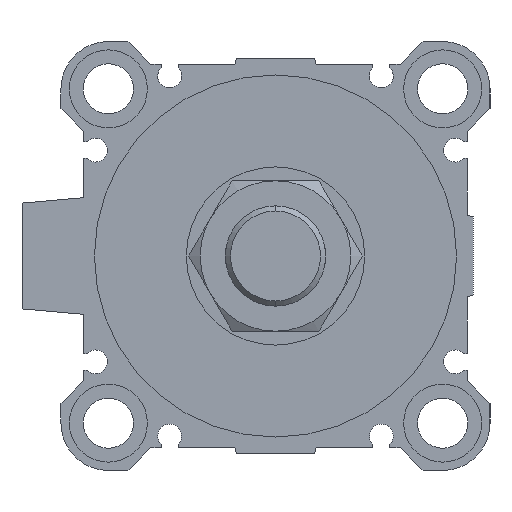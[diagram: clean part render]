
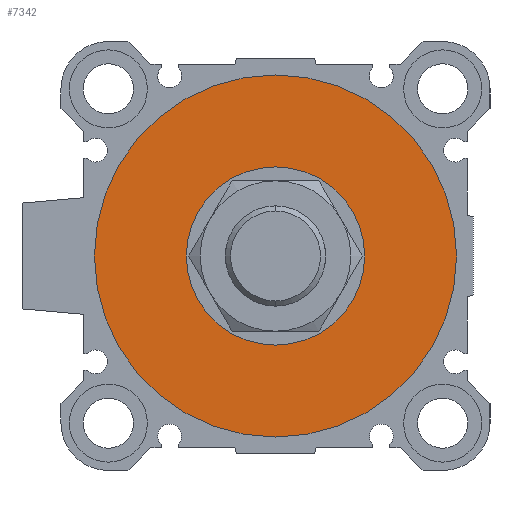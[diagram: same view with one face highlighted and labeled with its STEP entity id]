
A CAD part, left-side view. The second image highlights one B-rep face of the part: STEP entity #7342.
In plain terms, the highlighted planar face has unit normal (-1, 0, 0).
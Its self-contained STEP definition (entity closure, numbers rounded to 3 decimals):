
#43 = CARTESIAN_POINT ( 'NONE',  ( 4., 0., 32.5 ) ) ;
#703 = DIRECTION ( 'NONE',  ( 1., 0., 0. ) ) ;
#935 = EDGE_LOOP ( 'NONE', ( #3161, #3011 ) ) ;
#1296 = CARTESIAN_POINT ( 'NONE',  ( 4., 0., 0. ) ) ;
#1372 = EDGE_CURVE ( 'NONE', #1954, #5071, #6882, .T. ) ;
#1416 = DIRECTION ( 'NONE',  ( 1., 0., 0. ) ) ;
#1437 = DIRECTION ( 'NONE',  ( 1., 0., 0. ) ) ;
#1565 = CARTESIAN_POINT ( 'NONE',  ( 4., 0., 16. ) ) ;
#1954 = VERTEX_POINT ( 'NONE', #5795 ) ;
#1956 = EDGE_LOOP ( 'NONE', ( #3260, #4073 ) ) ;
#2089 = DIRECTION ( 'NONE',  ( 1., 0., 0. ) ) ;
#2161 = EDGE_CURVE ( 'NONE', #6889, #4918, #7389, .T. ) ;
#2221 = CIRCLE ( 'NONE', #3462, 16. ) ;
#2366 = AXIS2_PLACEMENT_3D ( 'NONE', #5132, #5165, #3441 ) ;
#2644 = DIRECTION ( 'NONE',  ( 0., 1., 0. ) ) ;
#2993 = EDGE_CURVE ( 'NONE', #4918, #6889, #4315, .T. ) ;
#3011 = ORIENTED_EDGE ( 'NONE', *, *, #2993, .F. ) ;
#3016 = AXIS2_PLACEMENT_3D ( 'NONE', #4833, #1416, #2644 ) ;
#3035 = DIRECTION ( 'NONE',  ( 0., 0., -1. ) ) ;
#3105 = CARTESIAN_POINT ( 'NONE',  ( 4., 0., -32.5 ) ) ;
#3161 = ORIENTED_EDGE ( 'NONE', *, *, #2161, .F. ) ;
#3260 = ORIENTED_EDGE ( 'NONE', *, *, #4165, .T. ) ;
#3441 = DIRECTION ( 'NONE',  ( 0., 0., -1. ) ) ;
#3462 = AXIS2_PLACEMENT_3D ( 'NONE', #4472, #1437, #6808 ) ;
#3585 = AXIS2_PLACEMENT_3D ( 'NONE', #1296, #2089, #3873 ) ;
#3873 = DIRECTION ( 'NONE',  ( 0., 0., -1. ) ) ;
#4073 = ORIENTED_EDGE ( 'NONE', *, *, #1372, .T. ) ;
#4165 = EDGE_CURVE ( 'NONE', #5071, #1954, #2221, .T. ) ;
#4261 = PLANE ( 'NONE',  #3016 ) ;
#4315 = CIRCLE ( 'NONE', #4552, 32.5 ) ;
#4472 = CARTESIAN_POINT ( 'NONE',  ( 4., 0., 0. ) ) ;
#4552 = AXIS2_PLACEMENT_3D ( 'NONE', #7060, #703, #3035 ) ;
#4833 = CARTESIAN_POINT ( 'NONE',  ( 4., 0., 0. ) ) ;
#4918 = VERTEX_POINT ( 'NONE', #3105 ) ;
#5071 = VERTEX_POINT ( 'NONE', #1565 ) ;
#5132 = CARTESIAN_POINT ( 'NONE',  ( 4., 0., 0. ) ) ;
#5165 = DIRECTION ( 'NONE',  ( 1., 0., 0. ) ) ;
#5556 = FACE_BOUND ( 'NONE', #1956, .T. ) ;
#5795 = CARTESIAN_POINT ( 'NONE',  ( 4., 0., -16. ) ) ;
#6016 = FACE_OUTER_BOUND ( 'NONE', #935, .T. ) ;
#6808 = DIRECTION ( 'NONE',  ( 0., 0., -1. ) ) ;
#6882 = CIRCLE ( 'NONE', #3585, 16. ) ;
#6889 = VERTEX_POINT ( 'NONE', #43 ) ;
#7060 = CARTESIAN_POINT ( 'NONE',  ( 4., 0., 0. ) ) ;
#7342 = ADVANCED_FACE ( 'NONE', ( #6016, #5556 ), #4261, .F. ) ;
#7389 = CIRCLE ( 'NONE', #2366, 32.5 ) ;
